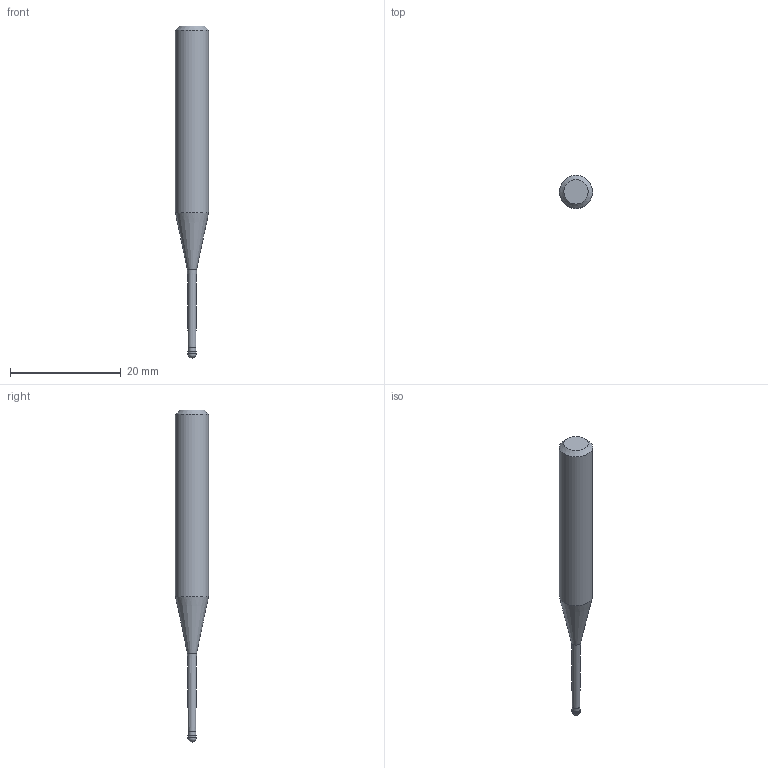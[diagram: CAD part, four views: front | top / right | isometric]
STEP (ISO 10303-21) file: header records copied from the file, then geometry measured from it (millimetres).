
FILE_DESCRIPTION((''),'2;1');
FILE_NAME('C:\Users\nsx150\AppData\Local\Temp\Mastercam 2021\E0ENTZRV18\TEMP.step','2021-09-02T09:56:19',(''),(''),'STEP Write','Mastercam 2021 ... CNC Software, Inc.','');
FILE_SCHEMA(('AUTOMOTIVE_DESIGN'));
Length unit declared in the file: millimetre
Products named in the file (1): None
Bounding box: 6 x 6 x 60 mm (x, y, z)
Volume: 1107.9 mm3; surface area: 860.1 mm2
Topology: 2 solids, 2 shells, 10 faces, 16 edges, 9 vertices
Faces by surface type: plane 3, cylinder 3, cone 3, sphere 1
Full cylindrical faces by diameter (mm): 1.39 x1, 1.5 x1, 6 x1
Entity records: 232 total; most frequent: DIRECTION 40, CARTESIAN_POINT 28, AXIS2_PLACEMENT_3D 20, ORIENTED_EDGE 16, EDGE_LOOP 16, STYLED_ITEM 13, ADVANCED_FACE 10, FACE_BOUND 9
